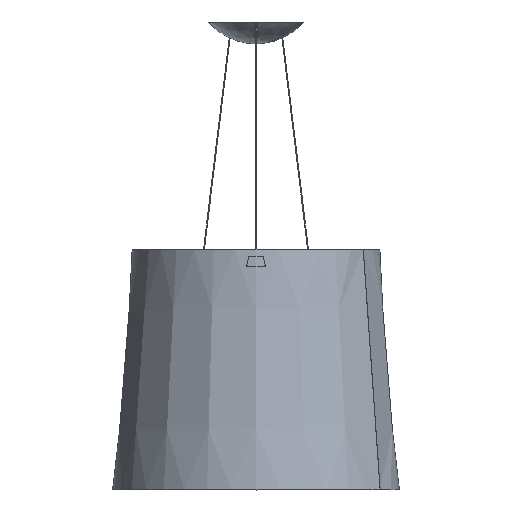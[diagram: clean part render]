
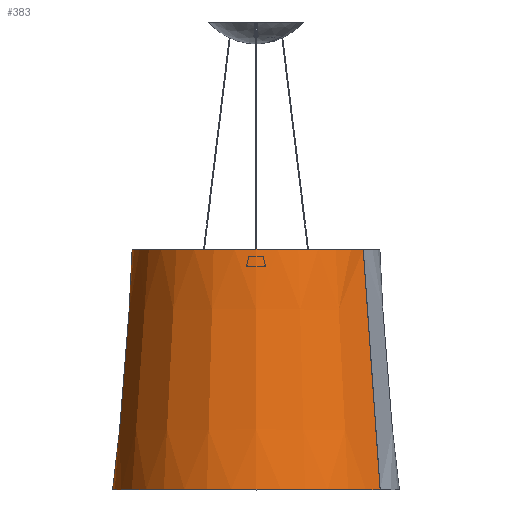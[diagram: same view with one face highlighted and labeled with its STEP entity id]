
A CAD part, top view. The second image highlights one B-rep face of the part: STEP entity #383.
In plain terms, the highlighted conical face has half-angle 4.647 degrees and reference radius 209 mm.
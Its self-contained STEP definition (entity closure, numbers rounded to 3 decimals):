
#383 = ADVANCED_FACE ( 'NONE', ( #13066 ), #12278, .T. ) ;
#832 = DIRECTION ( 'NONE',  ( 0., -1., 0. ) ) ;
#1060 = VECTOR ( 'NONE', #9364, 1000. ) ;
#2328 = EDGE_CURVE ( 'NONE', #51793, #27385, #22163, .T. ) ;
#5226 = AXIS2_PLACEMENT_3D ( 'NONE', #8351, #13123, #41169 ) ;
#5465 = DIRECTION ( 'NONE',  ( 0., -1., 0. ) ) ;
#6339 = AXIS2_PLACEMENT_3D ( 'NONE', #9383, #5465, #17412 ) ;
#7756 = ORIENTED_EDGE ( 'NONE', *, *, #13939, .T. ) ;
#8351 = CARTESIAN_POINT ( 'NONE',  ( 0., 405., 0. ) ) ;
#8638 = VECTOR ( 'NONE', #9107, 1000. ) ;
#9107 = DIRECTION ( 'NONE',  ( -0.07, -0.997, -0.041 ) ) ;
#9364 = DIRECTION ( 'NONE',  ( 0.07, -0.997, 0.041 ) ) ;
#9383 = CARTESIAN_POINT ( 'NONE',  ( 0., 0., 0. ) ) ;
#12250 = CIRCLE ( 'NONE', #6339, 241.92 ) ;
#12278 = CONICAL_SURFACE ( 'NONE', #32571, 209., 0.081 ) ;
#12719 = ORIENTED_EDGE ( 'NONE', *, *, #39370, .F. ) ;
#13066 = FACE_OUTER_BOUND ( 'NONE', #39452, .T. ) ;
#13123 = DIRECTION ( 'NONE',  ( 0., -1., 0. ) ) ;
#13939 = EDGE_CURVE ( 'NONE', #27385, #39102, #18589, .T. ) ;
#17332 = CARTESIAN_POINT ( 'NONE',  ( 0., 405., 0. ) ) ;
#17412 = DIRECTION ( 'NONE',  ( 0.866, 0., 0.5 ) ) ;
#18589 = LINE ( 'NONE', #25296, #8638 ) ;
#20804 = CARTESIAN_POINT ( 'NONE',  ( 180.999, 405., 104.5 ) ) ;
#22163 = CIRCLE ( 'NONE', #5226, 209. ) ;
#25296 = CARTESIAN_POINT ( 'NONE',  ( -180.999, 405., -104.5 ) ) ;
#27385 = VERTEX_POINT ( 'NONE', #29600 ) ;
#29600 = CARTESIAN_POINT ( 'NONE',  ( -180.999, 405., -104.5 ) ) ;
#32571 = AXIS2_PLACEMENT_3D ( 'NONE', #17332, #832, #36907 ) ;
#34055 = CARTESIAN_POINT ( 'NONE',  ( 209.509, 0., 120.96 ) ) ;
#34073 = CARTESIAN_POINT ( 'NONE',  ( -209.509, 0., -120.96 ) ) ;
#36907 = DIRECTION ( 'NONE',  ( 0.866, 0., 0.5 ) ) ;
#37516 = CARTESIAN_POINT ( 'NONE',  ( 180.999, 405., 104.5 ) ) ;
#37980 = LINE ( 'NONE', #20804, #1060 ) ;
#38565 = ORIENTED_EDGE ( 'NONE', *, *, #2328, .T. ) ;
#39102 = VERTEX_POINT ( 'NONE', #34073 ) ;
#39370 = EDGE_CURVE ( 'NONE', #51793, #42349, #37980, .T. ) ;
#39452 = EDGE_LOOP ( 'NONE', ( #38565, #7756, #50042, #12719 ) ) ;
#41169 = DIRECTION ( 'NONE',  ( 0.866, 0., 0.5 ) ) ;
#42349 = VERTEX_POINT ( 'NONE', #34055 ) ;
#50042 = ORIENTED_EDGE ( 'NONE', *, *, #50215, .F. ) ;
#50215 = EDGE_CURVE ( 'NONE', #42349, #39102, #12250, .T. ) ;
#51793 = VERTEX_POINT ( 'NONE', #37516 ) ;
